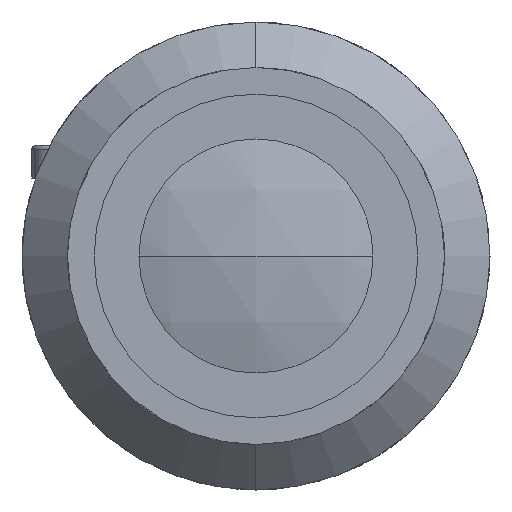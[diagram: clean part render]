
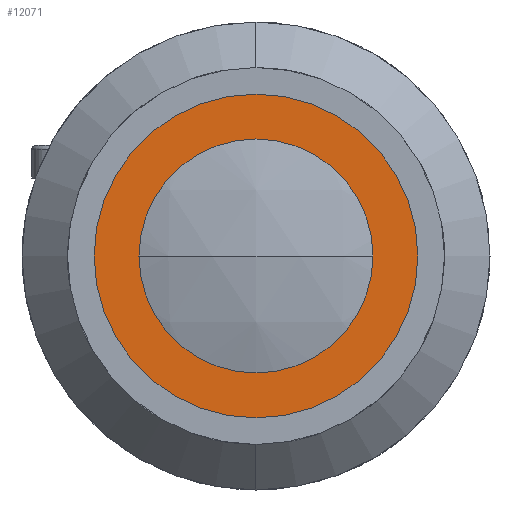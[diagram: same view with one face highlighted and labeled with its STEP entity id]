
A CAD part, left-side view. The second image highlights one B-rep face of the part: STEP entity #12071.
In plain terms, the highlighted planar face has unit normal (-1, 0, 0).
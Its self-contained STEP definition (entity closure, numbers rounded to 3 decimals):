
#1 = CARTESIAN_POINT ( 'NONE',  ( 3.5, 0., 0. ) ) ;
#105 = DIRECTION ( 'NONE',  ( -1., 0., 0. ) ) ;
#423 = CARTESIAN_POINT ( 'NONE',  ( 3.5, 0., 13.2 ) ) ;
#843 = AXIS2_PLACEMENT_3D ( 'NONE', #3333, #971, #9381 ) ;
#971 = DIRECTION ( 'NONE',  ( 1., 0., 0. ) ) ;
#1138 = CARTESIAN_POINT ( 'NONE',  ( 3.5, 0., -13.2 ) ) ;
#1202 = DIRECTION ( 'NONE',  ( 0., 0., 1. ) ) ;
#1977 = CIRCLE ( 'NONE', #9906, 13.2 ) ;
#2742 = FACE_OUTER_BOUND ( 'NONE', #11876, .T. ) ;
#2861 = VERTEX_POINT ( 'NONE', #423 ) ;
#2866 = CARTESIAN_POINT ( 'NONE',  ( 3.5, 0., 9. ) ) ;
#2899 = AXIS2_PLACEMENT_3D ( 'NONE', #1, #8432, #1202 ) ;
#3333 = CARTESIAN_POINT ( 'NONE',  ( 3.5, 13.2, 0. ) ) ;
#3986 = DIRECTION ( 'NONE',  ( -1., 0., 0. ) ) ;
#4163 = VERTEX_POINT ( 'NONE', #13502 ) ;
#4890 = EDGE_CURVE ( 'NONE', #4163, #14185, #10623, .T. ) ;
#5507 = ORIENTED_EDGE ( 'NONE', *, *, #13765, .T. ) ;
#5756 = PLANE ( 'NONE',  #843 ) ;
#6518 = CIRCLE ( 'NONE', #12707, 13.2 ) ;
#7033 = DIRECTION ( 'NONE',  ( -1., 0., 0. ) ) ;
#7331 = CARTESIAN_POINT ( 'NONE',  ( 3.5, 0., 0. ) ) ;
#8432 = DIRECTION ( 'NONE',  ( -1., 0., 0. ) ) ;
#8536 = DIRECTION ( 'NONE',  ( 0., 0., 1. ) ) ;
#8545 = AXIS2_PLACEMENT_3D ( 'NONE', #7331, #105, #8536 ) ;
#8658 = VERTEX_POINT ( 'NONE', #1138 ) ;
#9381 = DIRECTION ( 'NONE',  ( 0., 0., -1. ) ) ;
#9451 = ORIENTED_EDGE ( 'NONE', *, *, #11410, .T. ) ;
#9599 = EDGE_LOOP ( 'NONE', ( #10850, #14024 ) ) ;
#9906 = AXIS2_PLACEMENT_3D ( 'NONE', #14230, #7033, #15433 ) ;
#10623 = CIRCLE ( 'NONE', #2899, 9. ) ;
#10850 = ORIENTED_EDGE ( 'NONE', *, *, #14829, .F. ) ;
#11187 = CARTESIAN_POINT ( 'NONE',  ( 3.5, 0., 0. ) ) ;
#11410 = EDGE_CURVE ( 'NONE', #8658, #2861, #6518, .T. ) ;
#11876 = EDGE_LOOP ( 'NONE', ( #5507, #9451 ) ) ;
#12071 = ADVANCED_FACE ( 'NONE', ( #12335, #2742 ), #5756, .F. ) ;
#12335 = FACE_BOUND ( 'NONE', #9599, .T. ) ;
#12376 = DIRECTION ( 'NONE',  ( 0., 0., 1. ) ) ;
#12707 = AXIS2_PLACEMENT_3D ( 'NONE', #11187, #3986, #12376 ) ;
#13502 = CARTESIAN_POINT ( 'NONE',  ( 3.5, 0., -9. ) ) ;
#13765 = EDGE_CURVE ( 'NONE', #2861, #8658, #1977, .T. ) ;
#14024 = ORIENTED_EDGE ( 'NONE', *, *, #4890, .F. ) ;
#14185 = VERTEX_POINT ( 'NONE', #2866 ) ;
#14230 = CARTESIAN_POINT ( 'NONE',  ( 3.5, 0., 0. ) ) ;
#14829 = EDGE_CURVE ( 'NONE', #14185, #4163, #15548, .T. ) ;
#15433 = DIRECTION ( 'NONE',  ( 0., 0., 1. ) ) ;
#15548 = CIRCLE ( 'NONE', #8545, 9. ) ;
